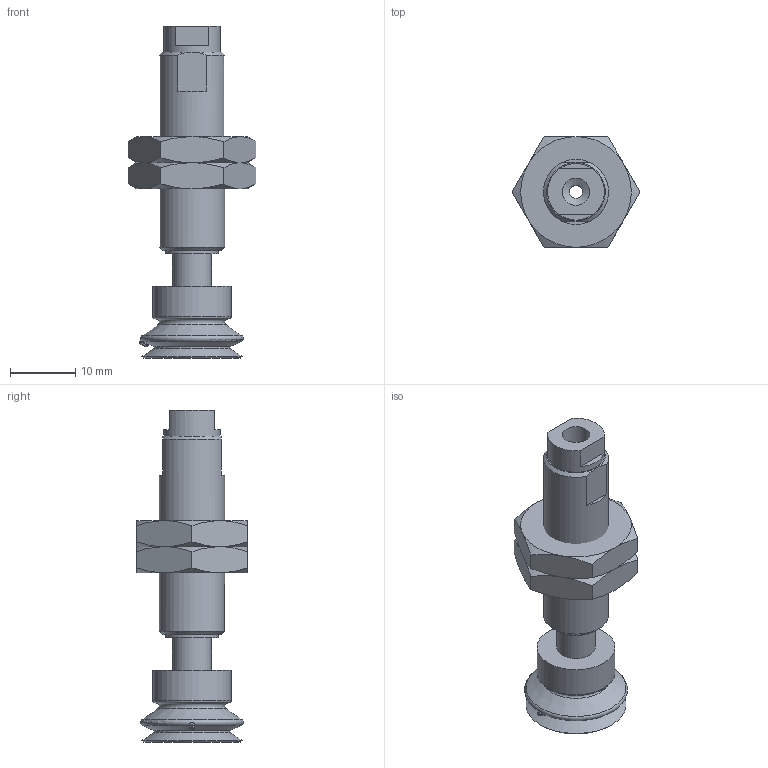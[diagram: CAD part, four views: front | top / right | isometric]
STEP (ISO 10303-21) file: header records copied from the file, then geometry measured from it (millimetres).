
FILE_DESCRIPTION(('STEP AP203'),'1');
FILE_NAME('-LB.stp','2025-04-25T02:08:30',(' '),(' '),'Spatial InterOp 3D',' ',' ');
FILE_SCHEMA(('CONFIG_CONTROL_DESIGN'));
Length unit declared in the file: millimetre
Products named in the file (7): BNABPJTH-15-5-※-LB; __; BODY; NUT; TN-PF-15-M5; BPJG-15-※
Assembly tree (6 placements, depth 2):
  BNABPJTH-15-5-※-LB
    __
    BODY
    NUT
    NUT
    TN-PF-15-M5
    BPJG-15-※
Bounding box: 19.63 x 17 x 51 mm (x, y, z)
Volume: 5020.2 mm3; surface area: 4488.5 mm2
Topology: 6 solids, 6 shells, 118 faces, 256 edges, 153 vertices
Faces by surface type: plane 45, cone 39, cylinder 15, torus 9, bspline 6, sphere 4
Full cylindrical faces by diameter (mm): 2 x1, 2.5 x1, 4.2 x2, 4.6 x1, 5 x1, 6 x1, 7.9 x1, 8 x2, 8.7 x1, 9 x2, 10 x1, 12 x1
Entity records: 3466 total; most frequent: CARTESIAN_POINT 802, DIRECTION 488, ORIENTED_EDGE 424, AXIS2_PLACEMENT_3D 217, EDGE_CURVE 212, EDGE_LOOP 167, VERTEX_POINT 143, FACE_OUTER_BOUND 140
